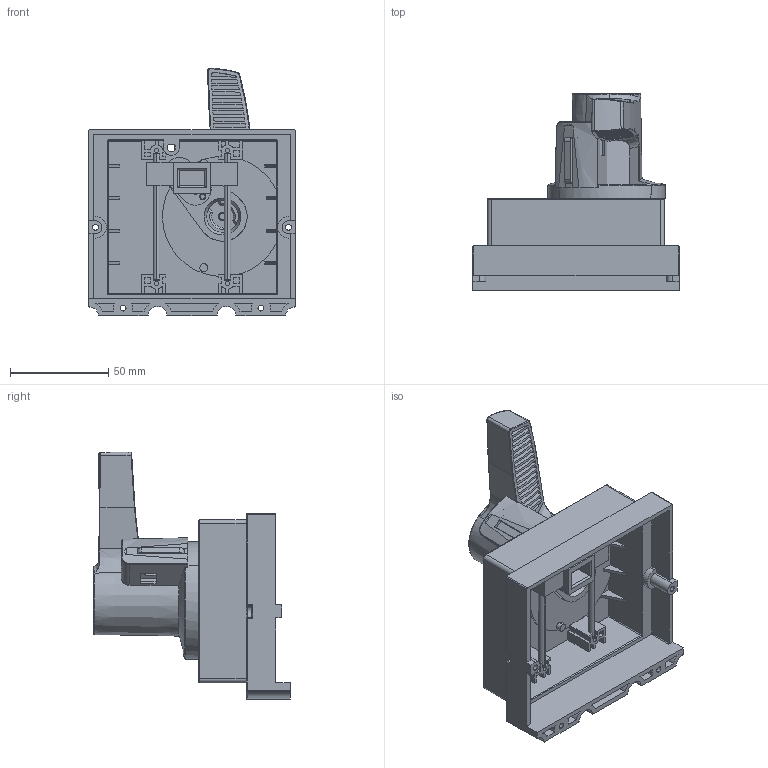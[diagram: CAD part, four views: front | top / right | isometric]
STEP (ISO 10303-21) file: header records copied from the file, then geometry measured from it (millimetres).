
FILE_DESCRIPTION((''),'2;1');
FILE_NAME('0000284729_ASM','2025-05-29T15:08:26',('zhangda'),(''),'CREO PARAMETRIC BY PTC INC, 2020354','CREO PARAMETRIC BY PTC INC, 2020354','');
FILE_SCHEMA(('CONFIG_CONTROL_DESIGN'));
Length unit declared in the file: metre
Products named in the file (19): 250_100_1-8982_1_2_3; 250_100_1-12736_1_2_3; 250_100_1-14018_1_2_3; 250_10_1_1_2_3; THM5-250G-8_10001_1_1_2_3; THM5-250G-9_10001_1_1_2_3; THM5-250G-1_10001_1_1_2_3; THM5-250G-1_20001_1_1_2_3; 250_200_ASM_1_1_2_3_ASM; 0000263700_ASM_1_1_2_3_ASM; 1_100_1_1; 1-8271M0304001_1_2_1_1; _1000_1_1; 1-8885M0101007_1_2_1_1; 0006_1_1; 250_100_ASM_1_1_ASM; 25000_ASM_1_1_ASM; 0000284735_ASM; 0000284729_ASM
Assembly tree (19 placements, depth 5):
  0000284729_ASM
    0000263700_ASM_1_1_2_3_ASM
      250_200_ASM_1_1_2_3_ASM
        250_100_1-8982_1_2_3
        250_100_1-12736_1_2_3
        250_100_1-14018_1_2_3
        250_10_1_1_2_3  x2
        THM5-250G-8_10001_1_1_2_3
        THM5-250G-9_10001_1_1_2_3
        THM5-250G-1_10001_1_1_2_3
        THM5-250G-1_20001_1_1_2_3
    0000284735_ASM
      25000_ASM_1_1_ASM
        250_100_ASM_1_1_ASM
          1_100_1_1
          1-8271M0304001_1_2_1_1
          _1000_1_1
          1-8885M0101007_1_2_1_1
          0006_1_1
Bounding box: 105 x 99.9 x 125.87 mm (x, y, z)
Volume: 140798.3 mm3; surface area: 121694.6 mm2
Topology: 14 solids, 14 shells, 1340 faces, 3710 edges, 2445 vertices
Faces by surface type: plane 787, cylinder 408, cone 52, torus 40, bspline 38, sphere 14, extrusion 1
Entity records: 46315 total; most frequent: CARTESIAN_POINT 11276, ORIENTED_EDGE 7378, DIRECTION 7209, EDGE_CURVE 3689, AXIS2_PLACEMENT_3D 2472, VERTEX_POINT 2441, VECTOR 2265, LINE 2264
